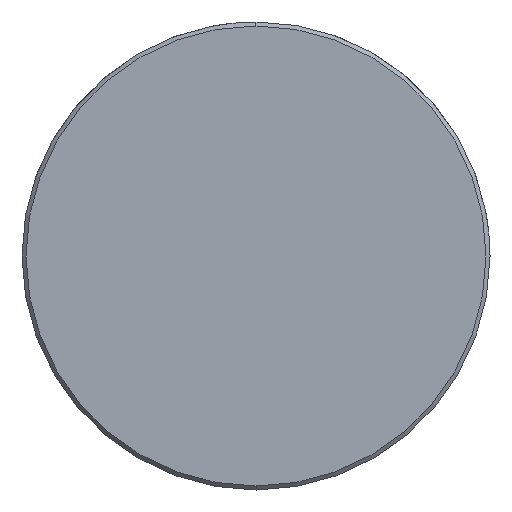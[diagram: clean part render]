
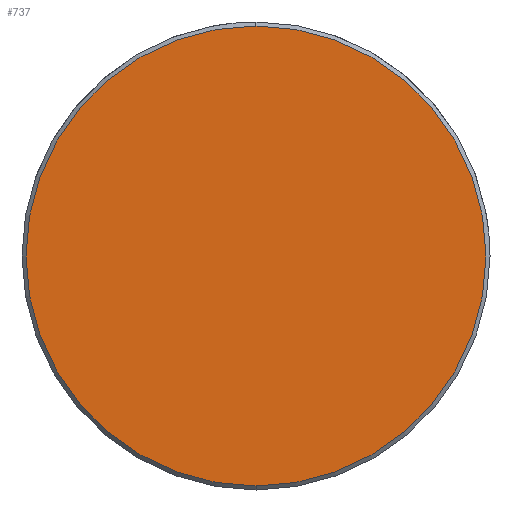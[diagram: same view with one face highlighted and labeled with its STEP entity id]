
A CAD part, left-side view. The second image highlights one B-rep face of the part: STEP entity #737.
In plain terms, the highlighted planar face has unit normal (-1, 0, 0).
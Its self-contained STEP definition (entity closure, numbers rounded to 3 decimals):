
#669=CARTESIAN_POINT('Vertex',(0.,0.,-17.2)) ;
#672=CARTESIAN_POINT('Axis2P3D Location',(0.,0.,0.)) ;
#676=CARTESIAN_POINT('Vertex',(0.,17.2,0.)) ;
#679=CARTESIAN_POINT('Axis2P3D Location',(0.,0.,0.)) ;
#683=CARTESIAN_POINT('Vertex',(0.,0.,17.2)) ;
#705=CARTESIAN_POINT('Axis2P3D Location',(0.,0.,0.)) ;
#709=CARTESIAN_POINT('Vertex',(0.,-17.2,0.)) ;
#712=CARTESIAN_POINT('Axis2P3D Location',(0.,0.,0.)) ;
#726=CARTESIAN_POINT('Axis2P3D Location',(0.,0.,0.)) ;
#673=DIRECTION('Axis2P3D Direction',(1.,0.,-0.)) ;
#680=DIRECTION('Axis2P3D Direction',(1.,0.,-0.)) ;
#706=DIRECTION('Axis2P3D Direction',(1.,0.,-0.)) ;
#713=DIRECTION('Axis2P3D Direction',(1.,0.,-0.)) ;
#727=DIRECTION('Axis2P3D Direction',(1.,0.,-0.)) ;
#728=DIRECTION('Axis2P3D XDirection',(-0.,0.,-1.)) ;
#674=AXIS2_PLACEMENT_3D('Circle Axis2P3D',#672,#673,$) ;
#681=AXIS2_PLACEMENT_3D('Circle Axis2P3D',#679,#680,$) ;
#707=AXIS2_PLACEMENT_3D('Circle Axis2P3D',#705,#706,$) ;
#714=AXIS2_PLACEMENT_3D('Circle Axis2P3D',#712,#713,$) ;
#729=AXIS2_PLACEMENT_3D('Plane Axis2P3D',#726,#727,#728) ;
#732=ORIENTED_EDGE('',*,*,#678,.F.) ;
#733=ORIENTED_EDGE('',*,*,#716,.F.) ;
#734=ORIENTED_EDGE('',*,*,#711,.F.) ;
#735=ORIENTED_EDGE('',*,*,#685,.F.) ;
#737=ADVANCED_FACE('549-30X320',(#736),#730,.F.) ;
#675=CIRCLE('generated circle',#674,17.2) ;
#682=CIRCLE('generated circle',#681,17.2) ;
#708=CIRCLE('generated circle',#707,17.2) ;
#715=CIRCLE('generated circle',#714,17.2) ;
#678=EDGE_CURVE('',#670,#677,#675,.T.) ;
#685=EDGE_CURVE('',#677,#684,#682,.T.) ;
#711=EDGE_CURVE('',#684,#710,#708,.T.) ;
#716=EDGE_CURVE('',#710,#670,#715,.T.) ;
#731=EDGE_LOOP('',(#732,#733,#734,#735)) ;
#736=FACE_OUTER_BOUND('',#731,.T.) ;
#730=PLANE('Plane',#729) ;
#670=VERTEX_POINT('',#669) ;
#677=VERTEX_POINT('',#676) ;
#684=VERTEX_POINT('',#683) ;
#710=VERTEX_POINT('',#709) ;
